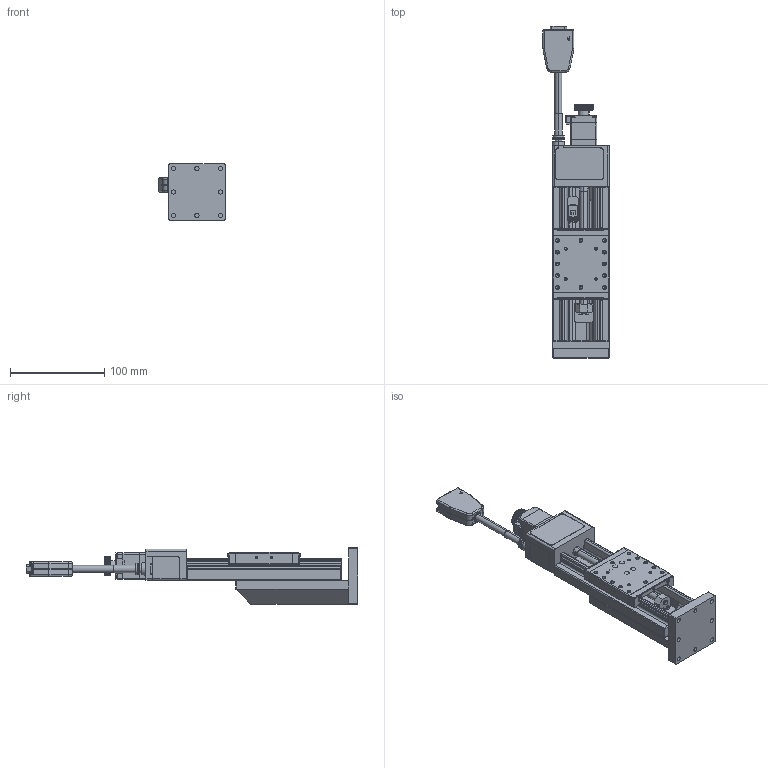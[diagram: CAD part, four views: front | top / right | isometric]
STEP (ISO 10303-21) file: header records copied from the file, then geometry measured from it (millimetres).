
FILE_DESCRIPTION (( 'STEP AP203' ), '1' );
FILE_NAME ('CZLN6075-S2?N.STEP', '2023-10-02T03:52:40', ( '' ), ( '' ), 'SwSTEP 2.0', 'SolidWorks 2019', '' );
FILE_SCHEMA (( 'CONFIG_CONTROL_DESIGN' ));
Products named in the file (4): CZLN6075-S2?N; CXN60-2_GMT; Group2^CZLN6075-S2?N_GMT; Group1^CZLN6075-S2?N_GMT
Assembly tree (3 placements, depth 2):
  CZLN6075-S2?N
    Group1^CZLN6075-S2?N_GMT
    Group2^CZLN6075-S2?N_GMT
    CXN60-2_GMT
Bounding box: 70.5 x 353.1 x 60 mm (x, y, z)
Volume: 39619.6 mm3; surface area: 132561.6 mm2
Topology: 24 solids, 27 shells, 4242 faces, 10944 edges, 6758 vertices
Faces by surface type: plane 1618, cylinder 1255, cone 548, torus 422, bspline 265, sphere 134
Entity records: 141713 total; most frequent: CARTESIAN_POINT 39438, ORIENTED_EDGE 21588, DIRECTION 21477, EDGE_CURVE 10794, AXIS2_PLACEMENT_3D 8169, VERTEX_POINT 6750, VECTOR 5139, LINE 5139
